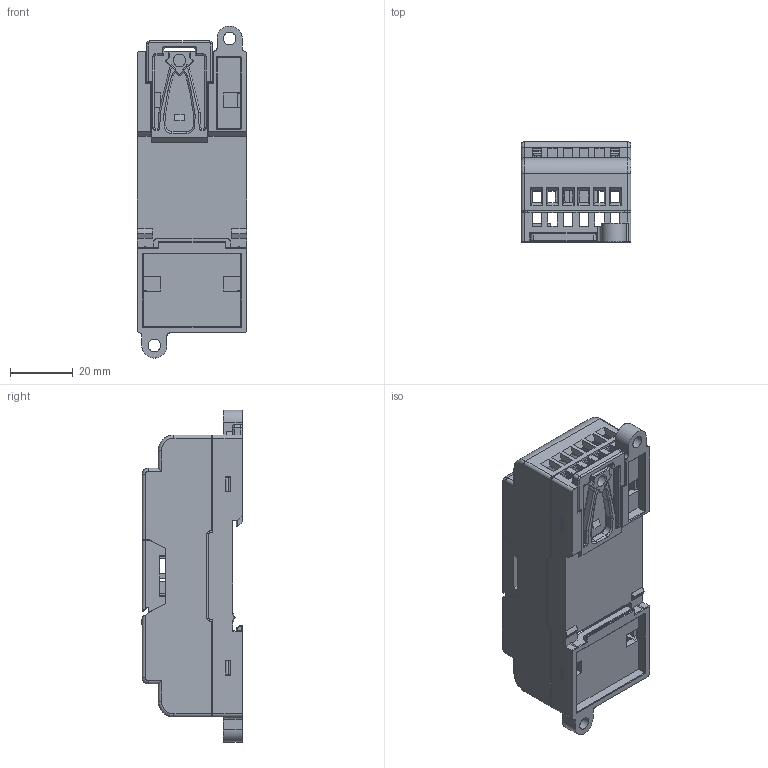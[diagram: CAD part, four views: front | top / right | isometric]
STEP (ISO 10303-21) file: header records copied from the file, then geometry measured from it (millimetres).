
FILE_DESCRIPTION(/* description */ (''),/* implementation_level */ '2;1');
FILE_NAME(/* name */ 'B1-8E-~3',/* time_stamp */ '2021-06-10T16:06:28+08:00',/* author */ (''),/* organization */ (''),/* preprocessor_version */ 'ST-DEVELOPER v16.5',/* originating_system */ '',/* authorisation */ '');
FILE_SCHEMA (('CONFIG_CONTROL_DESIGN'));
Length unit declared in the file: millimetre
Products named in the file (5): Document; JOIN; Block 07; B1-8E_IO2_COVER; Block 03
Assembly tree (4 placements, depth 3):
  Document
    JOIN
      Block 07
    B1-8E_IO2_COVER
      Block 03
Bounding box: 35 x 32.1 x 105.99 mm (x, y, z)
Surface area: 29925.7 mm2 (no closed solid volume)
Topology: 0 solids, 1063 shells, 1063 faces, 6025 edges, 6025 vertices
Faces by surface type: plane 723, cylinder 265, bspline 75
Entity records: 66725 total; most frequent: CARTESIAN_POINT 26103, ORIENTED_EDGE 6025, EDGE_CURVE 6025, VERTEX_POINT 6025, B_SPLINE_CURVE_WITH_KNOTS 5081, EDGE_LOOP 1170, SHELL_BASED_SURFACE_MODEL 1063, OPEN_SHELL 1063
